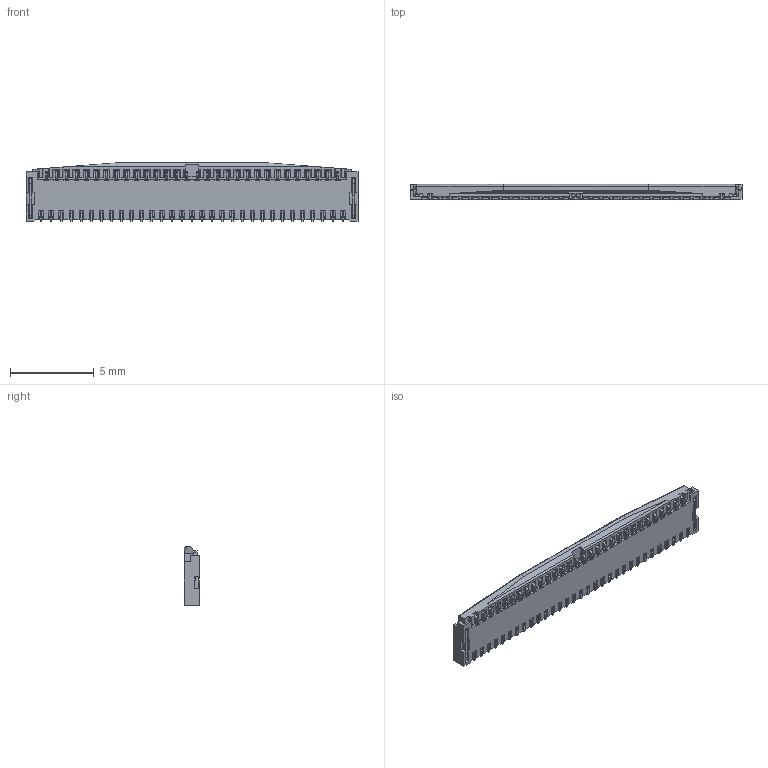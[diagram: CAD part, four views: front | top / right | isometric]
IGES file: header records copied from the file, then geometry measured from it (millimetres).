
Start section: SolidWorks IGES file using analytic representation for surfaces
Bounding box: 19.8 x 0.9 x 3.5 mm (x, y, z)
Surface area: 304.5 mm2 (no closed solid volume)
Topology: 0 solids, 0 shells, 5246 faces, 32490 edges, 32490 vertices
Faces by surface type: bspline 4524, revolution 722
